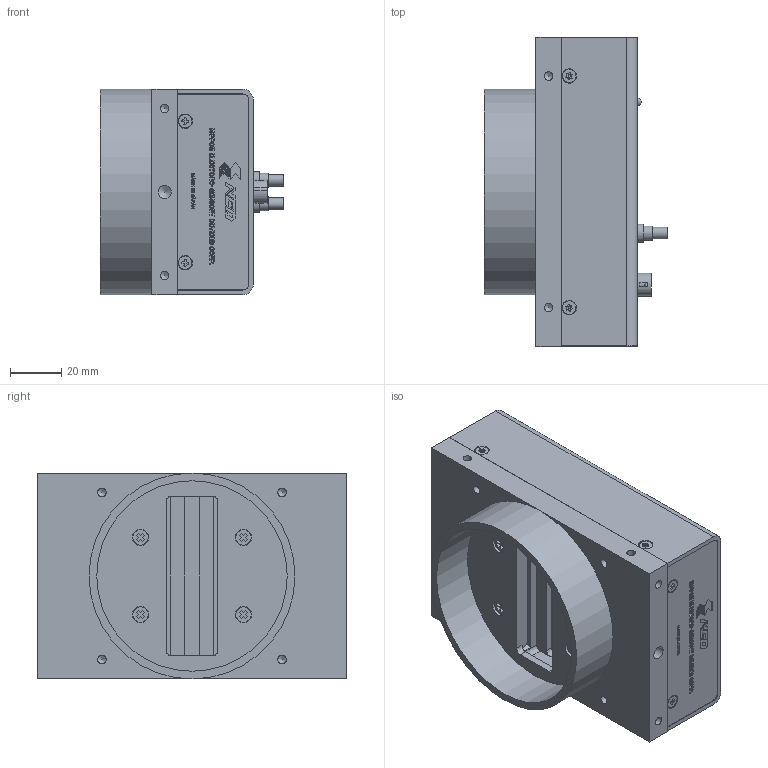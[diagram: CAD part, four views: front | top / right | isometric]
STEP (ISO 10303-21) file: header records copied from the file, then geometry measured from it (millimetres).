
FILE_DESCRIPTION (( 'STEP AP203' ), '1' );
FILE_NAME ('C7-5094-00-43／Line Scan Camera_RMSL8K76CP組立図.STEP', '2018-03-22T07:29:53', ( '' ), ( '' ), 'SwSTEP 2.0', 'SolidWorks 2016', '' );
FILE_SCHEMA (( 'CONFIG_CONTROL_DESIGN' ));
Length unit declared in the file: millimetre
Products named in the file (16): C7-5094-00-43／Line Scan Camera_RMSL8K76CP組立図; 菊座^C5-5094-00-43／コネクタ_HR10G-7R-6PB(73); C5-5042-00-43／ﾋﾟﾝ・ｻﾗ6-ﾛﾌﾞﾎﾞﾙﾄ_M2.6X6(SUS); C5-5035-00-43／サラネジ M2.6X06 SUS SFBJ2.6-6黒; C5-5021-00-40_08／サラネジ M3X08 SUS_SFBJ3-8; ナット^C5-5094-00-43／コネクタ_HR10G-7R-6PB(73); C5-1057-00-42／XCM_RT8_CXP用ｲﾝﾀｰﾌｪｲｽ基板_PCB-XCM_RT8-CXP00#F; C5-5094-00-43／コネクタ_HR10G-7R-6PB(73); C5-5095-00-43_02／コネクタ-ナット_282121-75; C4-1019-01-42／側面パネル; C4-1042-02-30／カメラ鏡筒; C4-1080-00-42／背面カバー; C5-5095-00-43_01／コネクタ_282121-75; C4-1018-01-42／フロントパネル; C5-5099-00-43／発光ダイオード_SPR-39MVWF
Assembly tree (29 placements, depth 3):
  C7-5094-00-43／Line Scan Camera_RMSL8K76CP組立図
    C4-1018-01-42／フロントパネル
    C4-1019-01-42／側面パネル  x2
    C4-1080-00-42／背面カバー
    C5-1057-00-42／XCM_RT8_CXP用ｲﾝﾀｰﾌｪｲｽ基板_PCB-XCM_RT8-CXP00#F
      C5-5099-00-43／発光ダイオード_SPR-39MVWF
    C5-5021-00-40_08／サラネジ M3X08 SUS_SFBJ3-8  x4
    C5-5035-00-43／サラネジ M2.6X06 SUS SFBJ2.6-6黒  x4
    C5-5042-00-43／ﾋﾟﾝ・ｻﾗ6-ﾛﾌﾞﾎﾞﾙﾄ_M2.6X6(SUS)  x6
    C5-5094-00-43／コネクタ_HR10G-7R-6PB(73)
      C5-5094-00-43／コネクタ_HR10G-7R-6PB(73)
      菊座^C5-5094-00-43／コネクタ_HR10G-7R-6PB(73)
      ナット^C5-5094-00-43／コネクタ_HR10G-7R-6PB(73)
    C5-5095-00-43_01／コネクタ_282121-75  x2
    C5-5095-00-43_02／コネクタ-ナット_282121-75  x2
    C4-1042-02-30／カメラ鏡筒
Bounding box: 71.2 x 120 x 80 mm (x, y, z)
Volume: 167088 mm3; surface area: 94803.7 mm2
Topology: 41 solids, 41 shells, 7353 faces, 19926 edges, 13247 vertices
Faces by surface type: plane 3590, bspline 3284, cylinder 375, cone 103, sphere 1
Full cylindrical faces by diameter (mm): 0.19 x1, 0.5 x6, 0.8 x2, 1 x6, 1.6 x6, 1.7 x2, 2.05 x16, 2.5 x8, 2.6 x10, 2.8 x6, 3 x4, 3.1 x1, 3.2 x4, 3.3 x12, 3.4 x4, 3.5 x3, 3.8 x1, 4 x1, 4.5 x2, 5.105 x1, 5.2 x4, 5.5 x4, 5.6 x1, 5.7 x1, 5.9 x2, 6 x4, 6.3 x4, 6.55 x1, 6.6 x1, 6.999 x4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
Entity records: 282247 total; most frequent: CARTESIAN_POINT 142980, ORIENTED_EDGE 33640, DIRECTION 18001, EDGE_CURVE 16820, VERTEX_POINT 11282, VECTOR 10163, LINE 10163, EDGE_LOOP 6988
